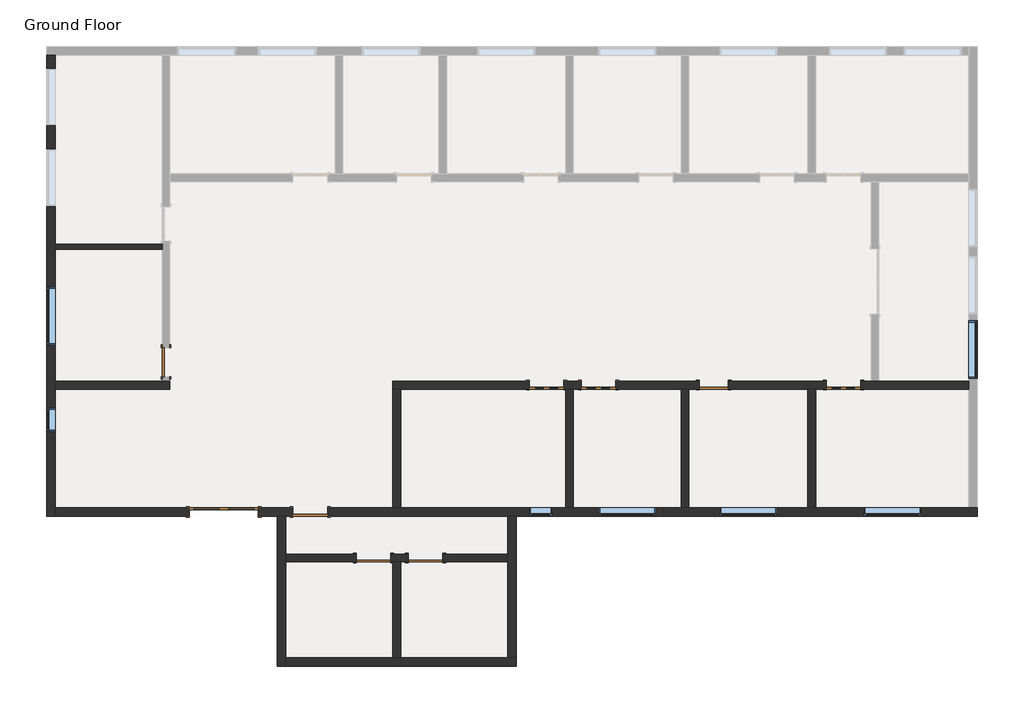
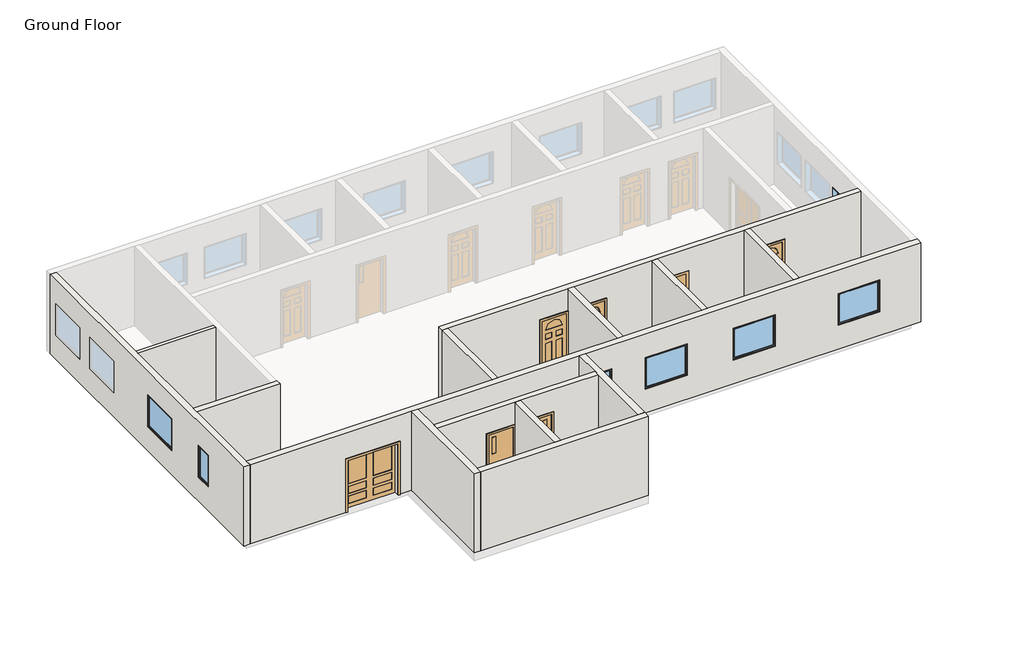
# One storey, part 1 of 2: 14 walls, 9 doors, 7 windows.
"""IFC4 building model written with IfcOpenShell, lengths in millimetres."""

import ifcopenshell
import ifcopenshell.guid

model = None  # the IFC model being written
_history = None  # IfcOwnerHistory: only IFC2X3 demands one
_inside = {}  # id of a spatial element -> (the spatial element, [elements in it])
_under = {}  # id of a project, library or spatial element -> (it, [spatial elements below it])
_declared = {}  # id of a project -> (the project, [libraries it declares])
_typed = {}  # id of a type object -> (the type object, [elements of that type])
_made_of = {}  # id of a material, layer set ... -> (it, [elements and type objects made of it])


def new_model(schema):
    """Start an empty IFC model of exactly this schema.

    Asked for "IFC4X3", IfcOpenShell would pick the latest addendum, in which some entities
    have other attributes; the version numbers below select the first issue.
    IFC2X3 requires an IfcOwnerHistory on every rooted entity: one is made here for all.
    """
    global model, _history
    if schema == "IFC4X3":
        model = ifcopenshell.file(schema_version=(4, 3, 0, 0))
    else:
        model = ifcopenshell.file(schema=schema)
    _inside.clear()
    _under.clear()
    _declared.clear()
    _typed.clear()
    _made_of.clear()
    _history = None
    if model.schema == "IFC2X3":
        org = make("IfcOrganization", Name="unknown")
        user = make(
            "IfcPersonAndOrganization",
            ThePerson=make("IfcPerson", FamilyName="unknown"),
            TheOrganization=org,
        )
        app = make(
            "IfcApplication",
            ApplicationDeveloper=org,
            Version="unknown",
            ApplicationFullName="unknown",
            ApplicationIdentifier="unknown",
        )
        _history = make(
            "IfcOwnerHistory",
            OwningUser=user,
            OwningApplication=app,
            ChangeAction="ADDED",
            CreationDate=0,
        )
    return model


def make(cls, **values):
    """One entity of the class cls with the attributes given. An attribute that is None is left unset."""
    return model.create_entity(
        cls, **{name: value for name, value in values.items() if value is not None}
    )


def rooted(cls, **values):
    """An entity with a GlobalId (a new one), such as an element, a storey or a relation."""
    return make(cls, GlobalId=ifcopenshell.guid.new(), OwnerHistory=_history, **values)


def si_unit(unit_type, name, prefix=None):
    """IfcSIUnit, for example si_unit("LENGTHUNIT", "METRE", prefix="MILLI")."""
    return make("IfcSIUnit", UnitType=unit_type, Prefix=prefix, Name=name)


def assignment(units):
    """IfcUnitAssignment: the units of a project."""
    return None if units is None else make("IfcUnitAssignment", Units=units)


def point(xyz):
    """IfcCartesianPoint."""
    return None if xyz is None else make("IfcCartesianPoint", Coordinates=xyz)


def direction(xyz):
    """IfcDirection."""
    return None if xyz is None else make("IfcDirection", DirectionRatios=xyz)


def frame(location, z_axis=None, x_axis=None):
    """IfcAxis2Placement3D, a coordinate frame: its origin and axes. An axis left out is left unset."""
    return make(
        "IfcAxis2Placement3D",
        Location=point(location),
        Axis=direction(z_axis),
        RefDirection=direction(x_axis),
    )


def frame_2d(location, x_axis=None):
    """IfcAxis2Placement2D, a coordinate frame in the plane: its origin and x axis."""
    return make(
        "IfcAxis2Placement2D", Location=point(location), RefDirection=direction(x_axis)
    )


def origin():
    """The frame at (0, 0, 0) with its axes left unset."""
    return frame((0.0, 0.0, 0.0))


def origin_with_axes():
    """The frame at (0, 0, 0) with the z axis (0, 0, 1) and the x axis (1, 0, 0) written out."""
    return frame((0.0, 0.0, 0.0), z_axis=(0.0, 0.0, 1.0), x_axis=(1.0, 0.0, 0.0))


def place(relative_to, where):
    """IfcLocalPlacement: puts the frame where relative to a parent placement (None: the world)."""
    return make(
        "IfcLocalPlacement", PlacementRelTo=relative_to, RelativePlacement=where
    )


def context(
    kind, dimensions, precision=None, world=None, true_north=None, identifier=None
):
    """IfcGeometricRepresentationContext, for example the 3D "Model" context."""
    return make(
        "IfcGeometricRepresentationContext",
        ContextIdentifier=identifier,
        ContextType=kind,
        CoordinateSpaceDimension=dimensions,
        Precision=precision,
        WorldCoordinateSystem=world,
        TrueNorth=true_north,
    )


def project(units=None, contexts=None):
    """IfcProject with its units and contexts."""
    return rooted(
        "IfcProject",
        Name="project",
        RepresentationContexts=contexts,
        UnitsInContext=assignment(units),
    )


def spatial(cls, under=None, at=None, **own):
    """A site, building, storey or space (cls), placed at a placement, below another one or the project."""
    s = rooted(cls, ObjectPlacement=at, **own)
    if under is not None:
        _under.setdefault(under.id(), (under, []))[1].append(s)
    return s


def polyline(points):
    """IfcPolyline through the points."""
    return make("IfcPolyline", Points=[point(p) for p in points])


def circle_curve(where, radius):
    """IfcCircle in the frame where."""
    return make("IfcCircle", Position=where, Radius=radius)


def trimmed(basis, trim1, trim2, sense, master):
    """IfcTrimmedCurve: the piece of a basis curve between two trims."""
    return make(
        "IfcTrimmedCurve",
        BasisCurve=basis,
        Trim1=trim1,
        Trim2=trim2,
        SenseAgreement=sense,
        MasterRepresentation=master,
    )


def segment(curve, same_sense, transition):
    """IfcCompositeCurveSegment."""
    return make(
        "IfcCompositeCurveSegment",
        Transition=transition,
        SameSense=same_sense,
        ParentCurve=curve,
    )


def composite_curve(segments, self_intersect=None):
    """IfcCompositeCurve: segments joined end to end."""
    return make("IfcCompositeCurve", Segments=segments, SelfIntersect=self_intersect)


def outline(outer, holes=None, kind="AREA"):
    """IfcArbitraryClosedProfileDef: a profile drawn as a closed curve; with holes, ...WithVoids."""
    if holes is None:
        return make("IfcArbitraryClosedProfileDef", ProfileType=kind, OuterCurve=outer)
    return make(
        "IfcArbitraryProfileDefWithVoids",
        ProfileType=kind,
        OuterCurve=outer,
        InnerCurves=holes,
    )


def extrude(swept, where, along, depth):
    """IfcExtrudedAreaSolid: the profile swept, set in the frame where, extruded along a direction by depth."""
    return make(
        "IfcExtrudedAreaSolid",
        SweptArea=swept,
        Position=where,
        ExtrudedDirection=direction(along),
        Depth=depth,
    )


def faces_of(points, faces, orient=None, outer=None):
    """IfcFace entities. A face is a list of loops; a loop is a list of indices into points, from 0.

    orient and outer hold one flag for each loop. By default every Orientation is true, the
    first loop of a face is its IfcFaceOuterBound and the others are IfcFaceBound.
    """
    made = []
    for i, loops in enumerate(faces):
        bounds = []
        for j, loop in enumerate(loops):
            is_outer = j == 0 if outer is None else outer[i][j]
            bounds.append(
                make(
                    "IfcFaceOuterBound" if is_outer else "IfcFaceBound",
                    Bound=make("IfcPolyLoop", Polygon=[points[k] for k in loop]),
                    Orientation=True if orient is None else orient[i][j],
                )
            )
        made.append(make("IfcFace", Bounds=bounds))
    return made


def faceted_brep(points, faces, orient=None, outer=None, voids=None):
    """IfcFacetedBrep: a solid bounded by flat faces; with voids (closed shells), ...WithVoids."""
    shared = [point(p) for p in points]
    hull = make("IfcClosedShell", CfsFaces=faces_of(shared, faces, orient, outer))
    if voids is None:
        return make("IfcFacetedBrep", Outer=hull)
    return make(
        "IfcFacetedBrepWithVoids",
        Outer=hull,
        Voids=[
            make(cls, CfsFaces=faces_of(shared, fs, o, b)) for cls, fs, o, b in voids
        ],
    )


def shape(context_of_items, identifier, shape_type, items):
    """IfcShapeRepresentation: the items that make up one representation, for example the "Body"."""
    return make(
        "IfcShapeRepresentation",
        ContextOfItems=context_of_items,
        RepresentationIdentifier=identifier,
        RepresentationType=shape_type,
        Items=items,
    )


def source(mapping_origin, context_of_items, identifier, shape_type, items):
    """IfcRepresentationMap: a shape defined once, which mapped items show again and again."""
    return make(
        "IfcRepresentationMap",
        MappingOrigin=mapping_origin,
        MappedRepresentation=shape(context_of_items, identifier, shape_type, items),
    )


def transform(
    local_origin,
    x_axis=None,
    y_axis=None,
    z_axis=None,
    scale=None,
    scale2=None,
    scale3=None,
    uniform=True,
):
    """IfcCartesianTransformationOperator3D, or its non-uniform kind. x_axis, y_axis, z_axis: its Axis1, 2, 3."""
    if uniform:
        return make(
            "IfcCartesianTransformationOperator3D",
            Axis1=direction(x_axis),
            Axis2=direction(y_axis),
            LocalOrigin=point(local_origin),
            Scale=scale,
            Axis3=direction(z_axis),
        )
    return make(
        "IfcCartesianTransformationOperator3DnonUniform",
        Axis1=direction(x_axis),
        Axis2=direction(y_axis),
        LocalOrigin=point(local_origin),
        Scale=scale,
        Axis3=direction(z_axis),
        Scale2=scale2,
        Scale3=scale3,
    )


def mapped(mapping_source, mapping_target):
    """IfcMappedItem: shows the shape of a source again, moved by a transform."""
    return make(
        "IfcMappedItem", MappingSource=mapping_source, MappingTarget=mapping_target
    )


def made_of(thing, what):
    """Note that an element or type object is made of a material, layer set ...; save() writes the relation."""
    if what is not None:
        _made_of.setdefault(what.id(), (what, []))[1].append(thing)
    return thing


def element(
    cls,
    number,
    at=None,
    inside=None,
    cuts=None,
    type_object=None,
    material=None,
    context=None,
    identifier="Body",
    shape_type=None,
    held_by="IfcProductDefinitionShape",
    body=None,
    shapes=None,
    **own,
):
    """One element of the class cls, such as IfcWall. Its Tag is "e" and its number.

    at: its placement. inside: the storey or other place that contains it. cuts: it is an
    opening in that element (IfcRelVoidsElement). A single representation is given by context,
    identifier, shape_type and body (its items); several are given by shapes. held_by: the class
    of the entity that holds the representations. save() writes the other relations.
    """
    e = rooted(cls, Tag="e%d" % number, ObjectPlacement=at, **own)
    if body is not None:
        shapes = [shape(context, identifier, shape_type, body)]
    if shapes is not None:
        e.Representation = make(held_by, Representations=shapes)
    if inside is not None:
        _inside.setdefault(inside.id(), (inside, []))[1].append(e)
    if cuts is not None:
        rooted(
            "IfcRelVoidsElement", RelatingBuildingElement=cuts, RelatedOpeningElement=e
        )
    if type_object is not None:
        _typed.setdefault(type_object.id(), (type_object, []))[1].append(e)
    return made_of(e, material)


def aggregate(whole, parts):
    """IfcRelAggregates: a whole, such as a stair, and the parts it consists of."""
    return rooted("IfcRelAggregates", RelatingObject=whole, RelatedObjects=parts)


def save(model, path):
    """Write the relations noted so far, then the file.

    IfcRelAggregates (storeys below a building ...), IfcRelContainedInSpatialStructure (elements
    in a storey), IfcRelDefinesByType, IfcRelAssociatesMaterial and IfcRelDeclares: one each for
    every whole, place, type object, material and project.
    """
    for whole, parts in _under.values():
        aggregate(whole, parts)
    for where, things in _inside.values():
        rooted(
            "IfcRelContainedInSpatialStructure",
            RelatedElements=things,
            RelatingStructure=where,
        )
    for kind, things in _typed.values():
        rooted("IfcRelDefinesByType", RelatedObjects=things, RelatingType=kind)
    for what, things in _made_of.values():
        rooted("IfcRelAssociatesMaterial", RelatedObjects=things, RelatingMaterial=what)
    for by, libraries in _declared.values():
        rooted("IfcRelDeclares", RelatingContext=by, RelatedDefinitions=libraries)
    model.write(path)


def door_5adec8b9(model_context):
    return source(origin(), model_context, "Body", "SweptSolid", [
        extrude(outline(polyline([(2057.4, -990.6), (0.0, -990.6), (0.0, -914.4), (1981.2, -914.4), (1981.2, 914.4), (0.0, 914.4), (0.0, 990.6), (2057.4, 990.6), (2057.4, -990.6)])), frame((0.0, 114.3, 0.0), z_axis=(0.0, 1.0, 0.0), x_axis=(0.0, 0.0, 1.0)), (0.0, 0.0, 1.0), 25.4),
        extrude(outline(polyline([(127.0, 101.6), (787.4, 101.6), (787.4, 76.2), (127.0, 76.2), (127.0, 101.6)])), frame((0.0, 0.0, 914.4), z_axis=(0.0, 0.0, 1.0), x_axis=(1.0, 0.0, 0.0)), (0.0, 0.0, 1.0), 914.4),
        extrude(outline(polyline([(127.0, 101.6), (787.4, 101.6), (787.4, 76.2), (127.0, 76.2), (127.0, 101.6)])), frame((0.0, 0.0, 533.4), z_axis=(0.0, 0.0, 1.0), x_axis=(1.0, 0.0, 0.0)), (0.0, 0.0, 1.0), 279.4),
        extrude(outline(polyline([(127.0, 101.6), (787.4, 101.6), (787.4, 76.2), (127.0, 76.2), (127.0, 101.6)])), frame((0.0, 0.0, 152.4), z_axis=(0.0, 0.0, 1.0), x_axis=(1.0, 0.0, 0.0)), (0.0, 0.0, 1.0), 279.4),
        extrude(outline(polyline([(-787.4, 101.6), (-127.0, 101.6), (-127.0, 76.2), (-787.4, 76.2), (-787.4, 101.6)])), frame((0.0, 0.0, 914.4), z_axis=(0.0, 0.0, 1.0), x_axis=(1.0, 0.0, 0.0)), (0.0, 0.0, 1.0), 914.4),
        extrude(outline(polyline([(-787.4, 101.6), (-127.0, 101.6), (-127.0, 76.2), (-787.4, 76.2), (-787.4, 101.6)])), frame((0.0, 0.0, 533.4), z_axis=(0.0, 0.0, 1.0), x_axis=(1.0, 0.0, 0.0)), (0.0, 0.0, 1.0), 279.4),
        extrude(outline(polyline([(-787.4, 101.6), (-127.0, 101.6), (-127.0, 76.2), (-787.4, 76.2), (-787.4, 101.6)])), frame((0.0, 0.0, 152.4), z_axis=(0.0, 0.0, 1.0), x_axis=(1.0, 0.0, 0.0)), (0.0, 0.0, 1.0), 279.4),
        extrude(outline(polyline([(1981.2, -914.4), (0.0, -914.4), (0.0, 914.4), (1981.2, 914.4), (1981.2, -914.4)]), holes=[polyline([(1828.8, 127.0), (1828.8, 787.4), (914.4, 787.4), (914.4, 127.0), (1828.8, 127.0)]), polyline([(533.4, 787.4), (533.4, 127.0), (812.8, 127.0), (812.8, 787.4), (533.4, 787.4)]), polyline([(431.8, 787.4), (152.4, 787.4), (152.4, 127.0), (431.8, 127.0), (431.8, 787.4)]), polyline([(1828.8, -127.0), (914.4, -127.0), (914.4, -787.4), (1828.8, -787.4), (1828.8, -127.0)]), polyline([(812.8, -787.4), (812.8, -127.0), (533.4, -127.0), (533.4, -787.4), (812.8, -787.4)]), polyline([(152.4, -127.0), (152.4, -787.4), (431.8, -787.4), (431.8, -127.0), (152.4, -127.0)])]), frame((0.0, 63.5, 0.0), z_axis=(0.0, 1.0, 0.0), x_axis=(0.0, 0.0, 1.0)), (0.0, 0.0, 1.0), 50.8),
        extrude(outline(polyline([(1981.2, -914.4), (1981.2, 914.4), (0.0, 914.4), (0.0, 990.6), (2057.4, 990.6), (2057.4, -990.6), (0.0, -990.6), (0.0, -914.4), (1981.2, -914.4)])), frame((0.0, -139.7, 0.0), z_axis=(0.0, 1.0, 0.0), x_axis=(0.0, 0.0, 1.0)), (0.0, 0.0, 1.0), 25.4),
    ])


def door_f6339938(model_context):
    return source(origin(), model_context, "Body", "SweptSolid", [
        extrude(outline(polyline([(0.0, -457.2), (0.0, 457.2), (2133.6, 457.2), (2133.6, -457.2), (0.0, -457.2)]), holes=[polyline([(254.0, -76.2), (254.0, -304.8), (1219.2, -304.8), (1219.2, -76.2), (254.0, -76.2)]), polyline([(254.0, 304.8), (254.0, 76.2), (1219.2, 76.2), (1219.2, 304.8), (254.0, 304.8)]), polyline([(1371.6, 76.2), (1574.8, 76.2), (1574.8, 304.8), (1371.6, 304.8), (1371.6, 76.2)]), polyline([(1371.6, -304.8), (1574.8, -304.8), (1574.8, -76.2), (1371.6, -76.2), (1371.6, -304.8)]), composite_curve([segment(polyline([(1727.2, 304.8), (1727.2, -304.8)]), True, "CONTINUOUS"), segment(trimmed(circle_curve(frame_2d((1727.2, 0.0)), 304.8), [point((1727.2, -304.8))], [point((1727.2, 304.8))], True, "CARTESIAN"), True, "CONTINUOUS")], self_intersect=False)]), frame((0.0, 50.8, 0.0), z_axis=(0.0, 1.0, 0.0), x_axis=(0.0, 0.0, 1.0)), (0.0, 0.0, 1.0), 50.8),
        extrude(outline(polyline([(0.0, 457.2), (0.0, 533.4), (2209.8, 533.4), (2209.8, -533.4), (0.0, -533.4), (0.0, -457.2), (2133.6, -457.2), (2133.6, 457.2), (0.0, 457.2)])), frame((0.0, -127.0, 0.0), z_axis=(0.0, 1.0, 0.0), x_axis=(0.0, 0.0, 1.0)), (0.0, 0.0, 1.0), 25.4),
        extrude(outline(polyline([(2209.8, -533.4), (0.0, -533.4), (0.0, -457.2), (2133.6, -457.2), (2133.6, 457.2), (0.0, 457.2), (0.0, 533.4), (2209.8, 533.4), (2209.8, -533.4)])), frame((0.0, 101.6, 0.0), z_axis=(0.0, 1.0, 0.0), x_axis=(0.0, 0.0, 1.0)), (0.0, 0.0, 1.0), 25.4),
        extrude(outline(composite_curve([segment(polyline([(1727.2, -304.8), (1727.2, 304.8)]), True, "CONTINUOUS"), segment(trimmed(circle_curve(frame_2d((1727.2, 0.0)), 304.8), [point((1727.2, 304.8))], [point((1727.2, -304.8))], False, "CARTESIAN"), True, "CONTINUOUS")], self_intersect=False)), frame((0.0, 67.7333333, 0.0), z_axis=(0.0, 1.0, 0.0), x_axis=(0.0, 0.0, 1.0)), (0.0, 0.0, 1.0), 16.9333333),
        extrude(outline(polyline([(-304.8, 84.6666667), (-76.2, 84.6666667), (-76.2, 67.7333333), (-304.8, 67.7333333), (-304.8, 84.6666667)])), frame((0.0, 0.0, 254.0), z_axis=(0.0, 0.0, 1.0), x_axis=(1.0, 0.0, 0.0)), (0.0, 0.0, 1.0), 965.2),
        extrude(outline(polyline([(76.2, 84.6666667), (304.8, 84.6666667), (304.8, 67.7333333), (76.2, 67.7333333), (76.2, 84.6666667)])), frame((0.0, 0.0, 254.0), z_axis=(0.0, 0.0, 1.0), x_axis=(1.0, 0.0, 0.0)), (0.0, 0.0, 1.0), 965.2),
        extrude(outline(polyline([(76.2, 84.6666667), (304.8, 84.6666667), (304.8, 67.7333333), (76.2, 67.7333333), (76.2, 84.6666667)])), frame((0.0, 0.0, 1371.6), z_axis=(0.0, 0.0, 1.0), x_axis=(1.0, 0.0, 0.0)), (0.0, 0.0, 1.0), 203.2),
        extrude(outline(polyline([(-304.8, 84.6666667), (-76.2, 84.6666667), (-76.2, 67.7333333), (-304.8, 67.7333333), (-304.8, 84.6666667)])), frame((0.0, 0.0, 1371.6), z_axis=(0.0, 0.0, 1.0), x_axis=(1.0, 0.0, 0.0)), (0.0, 0.0, 1.0), 203.2),
    ])


def door_4314e8ec(model_context):
    return source(origin(), model_context, "Body", "SweptSolid", [
        extrude(outline(polyline([(2209.8, -457.2), (0.0, -457.2), (0.0, -381.0), (2133.6, -381.0), (2133.6, 381.0), (0.0, 381.0), (0.0, 457.2), (2209.8, 457.2), (2209.8, -457.2)])), frame((0.0, -127.0, 0.0), z_axis=(0.0, 1.0, 0.0), x_axis=(0.0, 0.0, 1.0)), (0.0, 0.0, 1.0), 25.4),
        extrude(outline(polyline([(2209.8, 457.2), (2209.8, -457.2), (0.0, -457.2), (0.0, -381.0), (2133.6, -381.0), (2133.6, 381.0), (0.0, 381.0), (0.0, 457.2), (2209.8, 457.2)])), frame((0.0, 101.6, 0.0), z_axis=(0.0, 1.0, 0.0), x_axis=(0.0, 0.0, 1.0)), (0.0, 0.0, 1.0), 25.4),
        extrude(outline(polyline([(381.0, -50.8), (381.0, -101.6), (-381.0, -101.6), (-381.0, -50.8), (381.0, -50.8)])), origin_with_axes(), (0.0, 0.0, 1.0), 2133.6),
    ])


def door_b6acaa4e(model_context):
    return source(origin(), model_context, "Body", "SweptSolid", [
        extrude(outline(polyline([(2209.8, -457.2), (0.0, -457.2), (0.0, -381.0), (2133.6, -381.0), (2133.6, 381.0), (0.0, 381.0), (0.0, 457.2), (2209.8, 457.2), (2209.8, -457.2)])), frame((0.0, 101.6, 0.0), z_axis=(0.0, 1.0, 0.0), x_axis=(0.0, 0.0, 1.0)), (0.0, 0.0, 1.0), 25.4),
        extrude(outline(polyline([(2209.8, 457.2), (2209.8, -457.2), (0.0, -457.2), (0.0, -381.0), (2133.6, -381.0), (2133.6, 381.0), (0.0, 381.0), (0.0, 457.2), (2209.8, 457.2)])), frame((0.0, -127.0, 0.0), z_axis=(0.0, 1.0, 0.0), x_axis=(0.0, 0.0, 1.0)), (0.0, 0.0, 1.0), 25.4),
        extrude(outline(polyline([(381.0, 50.8), (-381.0, 50.8), (-381.0, 101.6), (381.0, 101.6), (381.0, 50.8)])), origin_with_axes(), (0.0, 0.0, 1.0), 2133.6),
    ])


def door_a570ce24(model_context):
    return source(origin(), model_context, "Body", "SweptSolid", [
        extrude(outline(polyline([(2209.8, -533.4), (0.0, -533.4), (0.0, -457.2), (2133.6, -457.2), (2133.6, 457.2), (0.0, 457.2), (0.0, 533.4), (2209.8, 533.4), (2209.8, -533.4)])), frame((0.0, 114.3, 0.0), z_axis=(0.0, 1.0, 0.0), x_axis=(0.0, 0.0, 1.0)), (0.0, 0.0, 1.0), 25.4),
        extrude(outline(polyline([(2133.6, 457.2), (0.0, 457.2), (0.0, 533.4), (2209.8, 533.4), (2209.8, -533.4), (0.0, -533.4), (0.0, -457.2), (2133.6, -457.2), (2133.6, 457.2)])), frame((0.0, -139.7, 0.0), z_axis=(0.0, 1.0, 0.0), x_axis=(0.0, 0.0, 1.0)), (0.0, 0.0, 1.0), 25.4),
        extrude(outline(polyline([(-177.8, 76.2), (-304.8, 76.2), (-304.8, 82.55), (-177.8, 82.55), (-177.8, 76.2)])), frame((0.0, 0.0, 1346.2), z_axis=(0.0, 0.0, 1.0), x_axis=(1.0, 0.0, 0.0)), (0.0, 0.0, 1.0), 635.0),
        extrude(outline(polyline([(-177.8, 95.25), (-304.8, 95.25), (-304.8, 101.6), (-177.8, 101.6), (-177.8, 95.25)])), frame((0.0, 0.0, 1346.2), z_axis=(0.0, 0.0, 1.0), x_axis=(1.0, 0.0, 0.0)), (0.0, 0.0, 1.0), 635.0),
        extrude(outline(polyline([(2133.6, -457.2), (0.0, -457.2), (0.0, 457.2), (2133.6, 457.2), (2133.6, -457.2)]), holes=[polyline([(1981.2, -304.8), (1981.2, -177.8), (1346.2, -177.8), (1346.2, -304.8), (1981.2, -304.8)])]), frame((0.0, 63.5, 0.0), z_axis=(0.0, 1.0, 0.0), x_axis=(0.0, 0.0, 1.0)), (0.0, 0.0, 1.0), 50.8),
    ])


def door_6ffddb7e(model_context):
    return source(origin(), model_context, "Body", "SweptSolid", [
        extrude(outline(polyline([(2209.8, -533.4), (0.0, -533.4), (0.0, -457.2), (2133.6, -457.2), (2133.6, 457.2), (0.0, 457.2), (0.0, 533.4), (2209.8, 533.4), (2209.8, -533.4)])), frame((0.0, 101.6, 0.0), z_axis=(0.0, 1.0, 0.0), x_axis=(0.0, 0.0, 1.0)), (0.0, 0.0, 1.0), 25.4),
        extrude(outline(polyline([(2133.6, 457.2), (0.0, 457.2), (0.0, 533.4), (2209.8, 533.4), (2209.8, -533.4), (0.0, -533.4), (0.0, -457.2), (2133.6, -457.2), (2133.6, 457.2)])), frame((0.0, -127.0, 0.0), z_axis=(0.0, 1.0, 0.0), x_axis=(0.0, 0.0, 1.0)), (0.0, 0.0, 1.0), 25.4),
        extrude(outline(polyline([(-177.8, 63.5), (-304.8, 63.5), (-304.8, 69.85), (-177.8, 69.85), (-177.8, 63.5)])), frame((0.0, 0.0, 1346.2), z_axis=(0.0, 0.0, 1.0), x_axis=(1.0, 0.0, 0.0)), (0.0, 0.0, 1.0), 635.0),
        extrude(outline(polyline([(-177.8, 82.55), (-304.8, 82.55), (-304.8, 88.9), (-177.8, 88.9), (-177.8, 82.55)])), frame((0.0, 0.0, 1346.2), z_axis=(0.0, 0.0, 1.0), x_axis=(1.0, 0.0, 0.0)), (0.0, 0.0, 1.0), 635.0),
        extrude(outline(polyline([(2133.6, -457.2), (0.0, -457.2), (0.0, 457.2), (2133.6, 457.2), (2133.6, -457.2)]), holes=[polyline([(1981.2, -304.8), (1981.2, -177.8), (1346.2, -177.8), (1346.2, -304.8), (1981.2, -304.8)])]), frame((0.0, 50.8, 0.0), z_axis=(0.0, 1.0, 0.0), x_axis=(0.0, 0.0, 1.0)), (0.0, 0.0, 1.0), 50.8),
    ])


def door_2b60cb60(model_context):
    return source(origin(), model_context, "Body", "SweptSolid", [
        extrude(outline(polyline([(2209.8, -533.4), (0.0, -533.4), (0.0, -457.2), (2133.6, -457.2), (2133.6, 457.2), (0.0, 457.2), (0.0, 533.4), (2209.8, 533.4), (2209.8, -533.4)])), frame((0.0, -127.0, 0.0), z_axis=(0.0, 1.0, 0.0), x_axis=(0.0, 0.0, 1.0)), (0.0, 0.0, 1.0), 25.4),
        extrude(outline(polyline([(2133.6, 457.2), (0.0, 457.2), (0.0, 533.4), (2209.8, 533.4), (2209.8, -533.4), (0.0, -533.4), (0.0, -457.2), (2133.6, -457.2), (2133.6, 457.2)])), frame((0.0, 101.6, 0.0), z_axis=(0.0, 1.0, 0.0), x_axis=(0.0, 0.0, 1.0)), (0.0, 0.0, 1.0), 25.4),
        extrude(outline(polyline([(-177.8, -63.5), (-177.8, -69.85), (-304.8, -69.85), (-304.8, -63.5), (-177.8, -63.5)])), frame((0.0, 0.0, 1346.2), z_axis=(0.0, 0.0, 1.0), x_axis=(1.0, 0.0, 0.0)), (0.0, 0.0, 1.0), 635.0),
        extrude(outline(polyline([(-177.8, -82.55), (-177.8, -88.9), (-304.8, -88.9), (-304.8, -82.55), (-177.8, -82.55)])), frame((0.0, 0.0, 1346.2), z_axis=(0.0, 0.0, 1.0), x_axis=(1.0, 0.0, 0.0)), (0.0, 0.0, 1.0), 635.0),
        extrude(outline(polyline([(2133.6, -457.2), (0.0, -457.2), (0.0, 457.2), (2133.6, 457.2), (2133.6, -457.2)]), holes=[polyline([(1981.2, -304.8), (1981.2, -177.8), (1346.2, -177.8), (1346.2, -304.8), (1981.2, -304.8)])]), frame((0.0, -101.6, 0.0), z_axis=(0.0, 1.0, 0.0), x_axis=(0.0, 0.0, 1.0)), (0.0, 0.0, 1.0), 50.8),
    ])


def window_c82808a1(model_context):
    return source(origin(), model_context, "Body", "SweptSolid", [
        extrude(outline(polyline([(203.2, 66.675), (-279.4, 66.675), (-279.4, 79.375), (203.2, 79.375), (203.2, 66.675)])), frame((0.0, 0.0, 977.9), z_axis=(0.0, 0.0, 1.0), x_axis=(1.0, 0.0, 0.0)), (0.0, 0.0, 1.0), 1092.2),
        extrude(outline(polyline([(2114.55, -323.85), (933.45, -323.85), (933.45, 247.65), (2114.55, 247.65), (2114.55, -323.85)]), holes=[polyline([(2070.1, -279.4), (2070.1, 203.2), (977.9, 203.2), (977.9, -279.4), (2070.1, -279.4)])]), frame((0.0, 50.8, 0.0), z_axis=(0.0, 1.0, 0.0), x_axis=(0.0, 0.0, 1.0)), (0.0, 0.0, 1.0), 44.45),
        extrude(outline(polyline([(2133.6, -342.9), (914.4, -342.9), (914.4, 266.7), (2133.6, 266.7), (2133.6, -342.9)]), holes=[polyline([(2101.85, -311.15), (2101.85, 234.95), (946.15, 234.95), (946.15, -311.15), (2101.85, -311.15)])]), frame((0.0, -114.3, 0.0), z_axis=(0.0, 1.0, 0.0), x_axis=(0.0, 0.0, 1.0)), (0.0, 0.0, 1.0), 165.1),
        extrude(outline(polyline([(2133.6, 266.7), (2133.6, -342.9), (914.4, -342.9), (914.4, 266.7), (2133.6, 266.7)]), holes=[polyline([(2114.55, 247.65), (933.45, 247.65), (933.45, -323.85), (2114.55, -323.85), (2114.55, 247.65)])]), frame((0.0, 50.8, 0.0), z_axis=(0.0, 1.0, 0.0), x_axis=(0.0, 0.0, 1.0)), (0.0, 0.0, 1.0), 63.5),
    ])


def window_145d3b12(model_context):
    return source(origin(), model_context, "Body", "SweptSolid", [
        extrude(outline(polyline([(660.4, 66.675), (-736.6, 66.675), (-736.6, 79.375), (660.4, 79.375), (660.4, 66.675)])), frame((0.0, 0.0, 977.9), z_axis=(0.0, 0.0, 1.0), x_axis=(1.0, 0.0, 0.0)), (0.0, 0.0, 1.0), 1092.2),
        extrude(outline(polyline([(2114.55, -781.05), (933.45, -781.05), (933.45, 704.85), (2114.55, 704.85), (2114.55, -781.05)]), holes=[polyline([(2070.1, -736.6), (2070.1, 660.4), (977.9, 660.4), (977.9, -736.6), (2070.1, -736.6)])]), frame((0.0, 50.8, 0.0), z_axis=(0.0, 1.0, 0.0), x_axis=(0.0, 0.0, 1.0)), (0.0, 0.0, 1.0), 44.45),
        extrude(outline(polyline([(2133.6, -800.1), (914.4, -800.1), (914.4, 723.9), (2133.6, 723.9), (2133.6, -800.1)]), holes=[polyline([(2101.85, -768.35), (2101.85, 692.15), (946.15, 692.15), (946.15, -768.35), (2101.85, -768.35)])]), frame((0.0, -114.3, 0.0), z_axis=(0.0, 1.0, 0.0), x_axis=(0.0, 0.0, 1.0)), (0.0, 0.0, 1.0), 165.1),
        extrude(outline(polyline([(2133.6, 723.9), (2133.6, -800.1), (914.4, -800.1), (914.4, 723.9), (2133.6, 723.9)]), holes=[polyline([(2114.55, 704.85), (933.45, 704.85), (933.45, -781.05), (2114.55, -781.05), (2114.55, 704.85)])]), frame((0.0, 50.8, 0.0), z_axis=(0.0, 1.0, 0.0), x_axis=(0.0, 0.0, 1.0)), (0.0, 0.0, 1.0), 63.5),
    ])


model = new_model("IFC4")

# Units and contexts
model_context = context("Model", 3, world=origin())
ifc_project = project(units=[si_unit("LENGTHUNIT", "METRE", prefix="MILLI")], contexts=[model_context])

# Site, building, storey
site = spatial("IfcSite", under=ifc_project)
building = spatial("IfcBuilding", under=site)
storey = spatial("IfcBuildingStorey", under=building, Name="Ground Floor", Elevation=0.0)

# Doors
placement = place(None, origin())
door_shape = door_5adec8b9(model_context)
element("IfcDoor", 1, ObjectType="Double-Panel 1 : 72\" x 78\"", at=placement, inside=storey, context=model_context, shape_type="MappedRepresentation", body=[
    mapped(door_shape, transform((-7913.6044048, -4590.2833744, 0.0), x_axis=(1.0, 0.0, 0.0), y_axis=(0.0, 1.0, 0.0), z_axis=(0.0, 0.0, 1.0))),
])
door_2_shape = door_f6339938(model_context)
element("IfcDoor", 2, ObjectType="Single-Decorative 2 : 36\" x 84\"", at=placement, inside=storey, context=model_context, shape_type="MappedRepresentation", body=[
    mapped(door_2_shape, transform((620.7955952, -1237.4833744, 0.0), x_axis=(-1.0, 0.0, 0.0), y_axis=(0.0, -1.0, 0.0), z_axis=(0.0, 0.0, 1.0))),
])
element("IfcDoor", 3, ObjectType="Single-Decorative 2 : 36\" x 84\"", at=placement, inside=storey, context=model_context, shape_type="MappedRepresentation", body=[
    mapped(door_2_shape, transform((1992.3955952, -1237.4833744, 0.0), x_axis=(-1.0, 0.0, 0.0), y_axis=(0.0, -1.0, 0.0), z_axis=(0.0, 0.0, 1.0))),
])
element("IfcDoor", 4, ObjectType="Single-Decorative 2 : 36\" x 84\"", at=placement, inside=storey, context=model_context, shape_type="MappedRepresentation", body=[
    mapped(door_2_shape, transform((8469.3955952, -1237.4833744, 0.0), x_axis=(-1.0, 0.0, 0.0), y_axis=(0.0, -1.0, 0.0), z_axis=(0.0, 0.0, 1.0))),
])
door_3_shape = door_4314e8ec(model_context)
element("IfcDoor", 5, ObjectType="Single-Flush : 30\" x 84\"", at=placement, inside=storey, context=model_context, shape_type="MappedRepresentation", body=[
    mapped(door_3_shape, transform((-9437.6044048, -627.8833744, 0.0), x_axis=(0.0, -1.0, 0.0), y_axis=(1.0, 0.0, 0.0), z_axis=(0.0, 0.0, 1.0))),
])
door_4_shape = door_b6acaa4e(model_context)
element("IfcDoor", 6, ObjectType="Single-Flush : 30\" x 84\"", at=placement, inside=storey, context=model_context, shape_type="MappedRepresentation", body=[
    mapped(door_4_shape, transform((5040.3955952, -1237.4833744, 0.0), x_axis=(-1.0, 0.0, 0.0), y_axis=(0.0, -1.0, 0.0), z_axis=(0.0, 0.0, 1.0))),
])
door_5_shape = door_a570ce24(model_context)
element("IfcDoor", 7, ObjectType="Single-Flush Vision : 36\" x 84\"", at=placement, inside=storey, context=model_context, shape_type="MappedRepresentation", body=[
    mapped(door_5_shape, transform((-5627.6044048, -4590.2833744, 0.0), x_axis=(-1.0, 0.0, 0.0), y_axis=(0.0, -1.0, 0.0), z_axis=(0.0, 0.0, 1.0))),
])
door_6_shape = door_6ffddb7e(model_context)
element("IfcDoor", 8, ObjectType="Single-Flush Vision : 36\" x 84\"", at=placement, inside=storey, context=model_context, shape_type="MappedRepresentation", body=[
    mapped(door_6_shape, transform((-2579.6044048, -5809.4833744, 0.0), x_axis=(-1.0, 0.0, 0.0), y_axis=(0.0, -1.0, 0.0), z_axis=(0.0, 0.0, 1.0))),
])
door_7_shape = door_2b60cb60(model_context)
element("IfcDoor", 9, ObjectType="Single-Flush Vision : 36\" x 84\"", at=placement, inside=storey, context=model_context, shape_type="MappedRepresentation", body=[
    mapped(door_7_shape, transform((-3951.2044048, -5809.4833744, 0.0), x_axis=(1.0, 0.0, 0.0), y_axis=(0.0, 1.0, 0.0), z_axis=(0.0, 0.0, 1.0))),
])

# Walls
element("IfcWall", 10, ObjectType="Generic - 5\"", at=placement, inside=storey, context=model_context, shape_type="SweptSolid", body=[
    extrude(outline(polyline([(-9539.2044048, 2356.6166256), (-12371.3044048, 2356.6166256), (-12371.3044048, 2483.6166256), (-9539.2044048, 2483.6166256), (-9539.2044048, 2356.6166256)])), origin_with_axes(), (0.0, 0.0, 1.0), 3048.0),
])
element("IfcWall", 11, ObjectType="Generic - 8\"", at=placement, inside=storey, context=model_context, shape_type="Brep", body=[
    faceted_brep([(-9336.0044048, -1135.8833744, 0.0), (-9539.2044048, -1135.8833744, 0.0), (-12371.3044048, -1135.8833744, 0.0), (-12371.3044048, -1135.8833744, 3048.0), (-9539.2044048, -1135.8833744, 3048.0), (-9336.0044048, -1135.8833744, 3048.0), (-9336.0044048, -1339.0833744, 0.0), (-9336.0044048, -1339.0833744, 3048.0), (-12371.3044048, -1339.0833744, 3048.0), (-12371.3044048, -1339.0833744, 0.0)], [[[0, 1, 2, 3, 4, 5]], [[6, 7, 8, 9]], [[2, 1, 0, 6, 9]], [[5, 4, 3, 8, 7]], [[3, 2, 9, 8]], [[0, 5, 7, 6]]]),
])
element("IfcWall", 12, ObjectType="Generic - 8\"", at=placement, inside=storey, context=model_context, shape_type="Brep", body=[
    faceted_brep([(2449.5955952, -1339.0833744, 0.0), (4176.7955952, -1339.0833744, 0.0), (4379.9955952, -1339.0833744, 0.0), (4659.3955952, -1339.0833744, 0.0), (4659.3955952, -1339.0833744, 2133.6), (5421.3955952, -1339.0833744, 2133.6), (5421.3955952, -1339.0833744, 0.0), (7529.5955952, -1339.0833744, 0.0), (7732.7955952, -1339.0833744, 0.0), (8012.1955952, -1339.0833744, 0.0), (8012.1955952, -1339.0833744, 2133.6), (8926.5955952, -1339.0833744, 2133.6), (8926.5955952, -1339.0833744, 0.0), (11784.0955952, -1339.0833744, 0.0), (11784.0955952, -1339.0833744, 3048.0), (7732.7955952, -1339.0833744, 3048.0), (7529.5955952, -1339.0833744, 3048.0), (4379.9955952, -1339.0833744, 3048.0), (4176.7955952, -1339.0833744, 3048.0), (1331.9955952, -1339.0833744, 3048.0), (1128.7955952, -1339.0833744, 3048.0), (-3240.0044048, -1339.0833744, 3048.0), (-3443.2044048, -1339.0833744, 3048.0), (-3443.2044048, -1339.0833744, 0.0), (-3240.0044048, -1339.0833744, 0.0), (163.5955952, -1339.0833744, 0.0), (163.5955952, -1339.0833744, 2133.6), (1077.9955952, -1339.0833744, 2133.6), (1077.9955952, -1339.0833744, 0.0), (1128.7955952, -1339.0833744, 0.0), (1331.9955952, -1339.0833744, 0.0), (1535.1955952, -1339.0833744, 0.0), (1535.1955952, -1339.0833744, 2133.6), (2449.5955952, -1339.0833744, 2133.6), (4659.3955952, -1135.8833744, 2133.6), (4659.3955952, -1135.8833744, 0.0), (2449.5955952, -1135.8833744, 0.0), (2449.5955952, -1135.8833744, 2133.6), (1535.1955952, -1135.8833744, 2133.6), (1535.1955952, -1135.8833744, 0.0), (1077.9955952, -1135.8833744, 0.0), (1077.9955952, -1135.8833744, 2133.6), (163.5955952, -1135.8833744, 2133.6), (163.5955952, -1135.8833744, 0.0), (-3443.2044048, -1135.8833744, 0.0), (-3443.2044048, -1135.8833744, 3048.0), (9205.9955952, -1135.8833744, 3048.0), (9409.1955952, -1135.8833744, 3048.0), (11784.0955952, -1135.8833744, 3048.0), (11784.0955952, -1135.8833744, 0.0), (9409.1955952, -1135.8833744, 0.0), (9205.9955952, -1135.8833744, 0.0), (8926.5955952, -1135.8833744, 0.0), (8926.5955952, -1135.8833744, 2133.6), (8012.1955952, -1135.8833744, 2133.6), (8012.1955952, -1135.8833744, 0.0), (5421.3955952, -1135.8833744, 0.0), (5421.3955952, -1135.8833744, 2133.6)], [[[0, 1, 2, 3, 4, 5, 6, 7, 8, 9, 10, 11, 12, 13, 14, 15, 16, 17, 18, 19, 20, 21, 22, 23, 24, 25, 26, 27, 28, 29, 30, 31, 32, 33]], [[34, 35, 36, 37, 38, 39, 40, 41, 42, 43, 44, 45, 46, 47, 48, 49, 50, 51, 52, 53, 54, 55, 56, 57]], [[44, 43, 25, 24, 23]], [[40, 39, 31, 30, 29, 28]], [[52, 51, 50, 49, 13, 12]], [[56, 55, 9, 8, 7, 6]], [[36, 35, 3, 2, 1, 0]], [[22, 21, 20, 19, 18, 17, 16, 15, 14, 48, 47, 46, 45]], [[14, 13, 49, 48]], [[23, 22, 45, 44]], [[26, 25, 43, 42]], [[27, 26, 42, 41]], [[28, 27, 41, 40]], [[32, 31, 39, 38]], [[33, 32, 38, 37]], [[0, 33, 37, 36]], [[10, 9, 55, 54]], [[11, 10, 54, 53]], [[12, 11, 53, 52]], [[4, 3, 35, 34]], [[5, 4, 34, 57]], [[6, 5, 57, 56]]]),
])
element("IfcWall", 13, ObjectType="Generic - 8\"", at=placement, inside=storey, context=model_context, shape_type="SweptSolid", body=[
    extrude(outline(polyline([(-3240.0044048, -1339.0833744), (-3240.0044048, -4475.9833744), (-3443.2044048, -4475.9833744), (-3443.2044048, -1339.0833744), (-3240.0044048, -1339.0833744)])), origin_with_axes(), (0.0, 0.0, 1.0), 3048.0),
])
element("IfcWall", 14, ObjectType="Generic - 8\"", at=placement, inside=storey, context=model_context, shape_type="SweptSolid", body=[
    extrude(outline(polyline([(1331.9955952, -1339.0833744), (1331.9955952, -4475.9833744), (1128.7955952, -4475.9833744), (1128.7955952, -1339.0833744), (1331.9955952, -1339.0833744)])), origin_with_axes(), (0.0, 0.0, 1.0), 3048.0),
])
element("IfcWall", 15, ObjectType="Generic - 8\"", at=placement, inside=storey, context=model_context, shape_type="SweptSolid", body=[
    extrude(outline(polyline([(4379.9955952, -1339.0833744), (4379.9955952, -4475.9833744), (4176.7955952, -4475.9833744), (4176.7955952, -1339.0833744), (4379.9955952, -1339.0833744)])), origin_with_axes(), (0.0, 0.0, 1.0), 3048.0),
])
element("IfcWall", 16, ObjectType="Generic - 8\"", at=placement, inside=storey, context=model_context, shape_type="SweptSolid", body=[
    extrude(outline(polyline([(7732.7955952, -1339.0833744), (7732.7955952, -4475.9833744), (7529.5955952, -4475.9833744), (7529.5955952, -1339.0833744), (7732.7955952, -1339.0833744)])), origin_with_axes(), (0.0, 0.0, 1.0), 3048.0),
])
element("IfcWall", 17, ObjectType="Generic - 8\"", at=placement, inside=storey, context=model_context, shape_type="SweptSolid", body=[
    extrude(outline(polyline([(-3240.0044048, -5911.0833744), (-3240.0044048, -8438.3833744), (-3443.2044048, -8438.3833744), (-3443.2044048, -5911.0833744), (-3240.0044048, -5911.0833744)])), origin_with_axes(), (0.0, 0.0, 1.0), 3048.0),
])
element("IfcWall", 18, ObjectType="Generic - 8\"", at=placement, inside=storey, context=model_context, shape_type="Brep", body=[
    faceted_brep([(-3036.8044048, -5707.8833744, 2133.6), (-3036.8044048, -5707.8833744, 0.0), (-3494.0044048, -5707.8833744, 0.0), (-3494.0044048, -5707.8833744, 2133.6), (-4408.4044048, -5707.8833744, 2133.6), (-4408.4044048, -5707.8833744, 0.0), (-6275.3044048, -5707.8833744, 0.0), (-6275.3044048, -5707.8833744, 3048.0), (-407.9044048, -5707.8833744, 3048.0), (-407.9044048, -5707.8833744, 0.0), (-2122.4044048, -5707.8833744, 0.0), (-2122.4044048, -5707.8833744, 2133.6), (-3494.0044048, -5911.0833744, 0.0), (-3443.2044048, -5911.0833744, 0.0), (-3240.0044048, -5911.0833744, 0.0), (-3036.8044048, -5911.0833744, 0.0), (-3036.8044048, -5911.0833744, 2133.6), (-2122.4044048, -5911.0833744, 2133.6), (-2122.4044048, -5911.0833744, 0.0), (-407.9044048, -5911.0833744, 0.0), (-407.9044048, -5911.0833744, 3048.0), (-3240.0044048, -5911.0833744, 3048.0), (-3443.2044048, -5911.0833744, 3048.0), (-6275.3044048, -5911.0833744, 3048.0), (-6275.3044048, -5911.0833744, 0.0), (-4408.4044048, -5911.0833744, 0.0), (-4408.4044048, -5911.0833744, 2133.6), (-3494.0044048, -5911.0833744, 2133.6)], [[[0, 1, 2, 3, 4, 5, 6, 7, 8, 9, 10, 11]], [[12, 13, 14, 15, 16, 17, 18, 19, 20, 21, 22, 23, 24, 25, 26, 27]], [[25, 24, 6, 5]], [[10, 9, 19, 18]], [[2, 1, 15, 14, 13, 12]], [[8, 7, 23, 22, 21, 20]], [[7, 6, 24, 23]], [[9, 8, 20, 19]], [[3, 2, 12, 27]], [[4, 3, 27, 26]], [[5, 4, 26, 25]], [[16, 15, 1, 0]], [[17, 16, 0, 11]], [[18, 17, 11, 10]]]),
])
element("IfcWall", 19, ObjectType="Generic- 9\"", at=placement, inside=storey, context=model_context, shape_type="Brep", body=[
    faceted_brep([(-12371.3044048, -4704.5833744, 0.0), (-12371.3044048, -4475.9833744, 0.0), (-12371.3044048, -1339.0833744, 0.0), (-12371.3044048, -1135.8833744, 0.0), (-12371.3044048, 2356.6166256, 0.0), (-12371.3044048, 2483.6166256, 0.0), (-12371.3044048, 7487.4166256, 0.0), (-12371.3044048, 7487.4166256, 3048.0), (-12371.3044048, 2483.6166256, 3048.0), (-12371.3044048, 2356.6166256, 3048.0), (-12371.3044048, -1135.8833744, 3048.0), (-12371.3044048, -1339.0833744, 3048.0), (-12371.3044048, -4475.9833744, 3048.0), (-12371.3044048, -4704.5833744, 3048.0), (-12371.3044048, 1353.3166256, 2133.6), (-12371.3044048, 1353.3166256, 914.4), (-12371.3044048, -170.6833744, 914.4), (-12371.3044048, -170.6833744, 2133.6), (-12371.3044048, 5010.9166256, 2133.6), (-12371.3044048, 5010.9166256, 914.4), (-12371.3044048, 3486.9166256, 914.4), (-12371.3044048, 3486.9166256, 2133.6), (-12371.3044048, 7144.5166256, 2133.6), (-12371.3044048, 7144.5166256, 914.4), (-12371.3044048, 5620.5166256, 914.4), (-12371.3044048, 5620.5166256, 2133.6), (-12371.3044048, -1847.0833744, 2133.6), (-12371.3044048, -1847.0833744, 914.4), (-12371.3044048, -2456.6833744, 914.4), (-12371.3044048, -2456.6833744, 2133.6), (-12599.9044048, -4704.5833744, 0.0), (-12599.9044048, -4704.5833744, 3048.0), (-12599.9044048, 7487.4166256, 3048.0), (-12599.9044048, 7487.4166256, 0.0), (-12599.9044048, 1353.3166256, 2133.6), (-12599.9044048, -170.6833744, 2133.6), (-12599.9044048, -170.6833744, 914.4), (-12599.9044048, 1353.3166256, 914.4), (-12599.9044048, 5010.9166256, 2133.6), (-12599.9044048, 3486.9166256, 2133.6), (-12599.9044048, 3486.9166256, 914.4), (-12599.9044048, 5010.9166256, 914.4), (-12599.9044048, 7144.5166256, 2133.6), (-12599.9044048, 5620.5166256, 2133.6), (-12599.9044048, 5620.5166256, 914.4), (-12599.9044048, 7144.5166256, 914.4), (-12599.9044048, -1847.0833744, 2133.6), (-12599.9044048, -2456.6833744, 2133.6), (-12599.9044048, -2456.6833744, 914.4), (-12599.9044048, -1847.0833744, 914.4)], [[[0, 1, 2, 3, 4, 5, 6, 7, 8, 9, 10, 11, 12, 13], [14, 15, 16, 17], [18, 19, 20, 21], [22, 23, 24, 25], [26, 27, 28, 29]], [[30, 31, 32, 33], [34, 35, 36, 37], [38, 39, 40, 41], [42, 43, 44, 45], [46, 47, 48, 49]], [[6, 5, 4, 3, 2, 1, 0, 30, 33]], [[13, 12, 11, 10, 9, 8, 7, 32, 31]], [[0, 13, 31, 30]], [[7, 6, 33, 32]], [[15, 14, 34, 37]], [[16, 15, 37, 36]], [[17, 16, 36, 35]], [[14, 17, 35, 34]], [[19, 18, 38, 41]], [[20, 19, 41, 40]], [[21, 20, 40, 39]], [[18, 21, 39, 38]], [[23, 22, 42, 45]], [[24, 23, 45, 44]], [[25, 24, 44, 43]], [[22, 25, 43, 42]], [[27, 26, 46, 49]], [[28, 27, 49, 48]], [[29, 28, 48, 47]], [[26, 29, 47, 46]]]),
])
element("IfcWall", 20, ObjectType="Generic- 9\"", at=placement, inside=storey, context=model_context, shape_type="Brep", body=[
    faceted_brep([(-6084.8044048, -4475.9833744, 2133.6), (-6084.8044048, -4475.9833744, 0.0), (-6999.2044048, -4475.9833744, 0.0), (-6999.2044048, -4475.9833744, 1981.2), (-8828.0044048, -4475.9833744, 1981.2), (-8828.0044048, -4475.9833744, 0.0), (-12371.3044048, -4475.9833744, 0.0), (-12371.3044048, -4475.9833744, 3048.0), (-3443.2044048, -4475.9833744, 3048.0), (-3240.0044048, -4475.9833744, 3048.0), (1128.7955952, -4475.9833744, 3048.0), (1331.9955952, -4475.9833744, 3048.0), (4176.7955952, -4475.9833744, 3048.0), (4379.9955952, -4475.9833744, 3048.0), (7529.5955952, -4475.9833744, 3048.0), (7732.7955952, -4475.9833744, 3048.0), (11784.0955952, -4475.9833744, 3048.0), (12012.6955952, -4475.9833744, 3048.0), (12012.6955952, -4475.9833744, 0.0), (11784.0955952, -4475.9833744, 0.0), (7732.7955952, -4475.9833744, 0.0), (7529.5955952, -4475.9833744, 0.0), (4379.9955952, -4475.9833744, 0.0), (4176.7955952, -4475.9833744, 0.0), (1331.9955952, -4475.9833744, 0.0), (1128.7955952, -4475.9833744, 0.0), (-3240.0044048, -4475.9833744, 0.0), (-3443.2044048, -4475.9833744, 0.0), (-5170.4044048, -4475.9833744, 0.0), (-5170.4044048, -4475.9833744, 2133.6), (9002.7955952, -4475.9833744, 2133.6), (9002.7955952, -4475.9833744, 914.4), (10526.7955952, -4475.9833744, 914.4), (10526.7955952, -4475.9833744, 2133.6), (5192.7955952, -4475.9833744, 2133.6), (5192.7955952, -4475.9833744, 914.4), (6716.7955952, -4475.9833744, 914.4), (6716.7955952, -4475.9833744, 2133.6), (1992.3955952, -4475.9833744, 2133.6), (1992.3955952, -4475.9833744, 914.4), (3516.3955952, -4475.9833744, 914.4), (3516.3955952, -4475.9833744, 2133.6), (163.5955952, -4475.9833744, 2133.6), (163.5955952, -4475.9833744, 914.4), (773.1955952, -4475.9833744, 914.4), (773.1955952, -4475.9833744, 2133.6), (-6999.2044048, -4704.5833744, 0.0), (-6503.9044048, -4704.5833744, 0.0), (-6275.3044048, -4704.5833744, 0.0), (-6084.8044048, -4704.5833744, 0.0), (-6084.8044048, -4704.5833744, 2133.6), (-5170.4044048, -4704.5833744, 2133.6), (-5170.4044048, -4704.5833744, 0.0), (-407.9044048, -4704.5833744, 0.0), (-179.3044048, -4704.5833744, 0.0), (12012.6955952, -4704.5833744, 0.0), (12012.6955952, -4704.5833744, 3048.0), (-179.3044048, -4704.5833744, 3048.0), (-407.9044048, -4704.5833744, 3048.0), (-6275.3044048, -4704.5833744, 3048.0), (-6503.9044048, -4704.5833744, 3048.0), (-12371.3044048, -4704.5833744, 3048.0), (-12371.3044048, -4704.5833744, 0.0), (-8828.0044048, -4704.5833744, 0.0), (-8828.0044048, -4704.5833744, 1981.2), (-6999.2044048, -4704.5833744, 1981.2), (9002.7955952, -4704.5833744, 2133.6), (10526.7955952, -4704.5833744, 2133.6), (10526.7955952, -4704.5833744, 914.4), (9002.7955952, -4704.5833744, 914.4), (5192.7955952, -4704.5833744, 2133.6), (6716.7955952, -4704.5833744, 2133.6), (6716.7955952, -4704.5833744, 914.4), (5192.7955952, -4704.5833744, 914.4), (1992.3955952, -4704.5833744, 2133.6), (3516.3955952, -4704.5833744, 2133.6), (3516.3955952, -4704.5833744, 914.4), (1992.3955952, -4704.5833744, 914.4), (163.5955952, -4704.5833744, 2133.6), (773.1955952, -4704.5833744, 2133.6), (773.1955952, -4704.5833744, 914.4), (163.5955952, -4704.5833744, 914.4)], [[[0, 1, 2, 3, 4, 5, 6, 7, 8, 9, 10, 11, 12, 13, 14, 15, 16, 17, 18, 19, 20, 21, 22, 23, 24, 25, 26, 27, 28, 29], [30, 31, 32, 33], [34, 35, 36, 37], [38, 39, 40, 41], [42, 43, 44, 45]], [[46, 47, 48, 49, 50, 51, 52, 53, 54, 55, 56, 57, 58, 59, 60, 61, 62, 63, 64, 65], [66, 67, 68, 69], [70, 71, 72, 73], [74, 75, 76, 77], [78, 79, 80, 81]], [[62, 6, 5, 63]], [[2, 1, 49, 48, 47, 46]], [[28, 27, 26, 25, 24, 23, 22, 21, 20, 19, 18, 55, 54, 53, 52]], [[17, 16, 15, 14, 13, 12, 11, 10, 9, 8, 7, 61, 60, 59, 58, 57, 56]], [[18, 17, 56, 55]], [[7, 6, 62, 61]], [[65, 3, 2, 46]], [[3, 65, 64, 4]], [[4, 64, 63, 5]], [[50, 49, 1, 0]], [[51, 50, 0, 29]], [[52, 51, 29, 28]], [[31, 30, 66, 69]], [[32, 31, 69, 68]], [[33, 32, 68, 67]], [[30, 33, 67, 66]], [[35, 34, 70, 73]], [[36, 35, 73, 72]], [[37, 36, 72, 71]], [[34, 37, 71, 70]], [[39, 38, 74, 77]], [[40, 39, 77, 76]], [[41, 40, 76, 75]], [[38, 41, 75, 74]], [[43, 42, 78, 81]], [[44, 43, 81, 80]], [[45, 44, 80, 79]], [[42, 45, 79, 78]]]),
])
element("IfcWall", 21, ObjectType="Generic- 9\"", at=placement, inside=storey, context=model_context, shape_type="Brep", body=[
    faceted_brep([(-6503.9044048, -4704.5833744, 0.0), (-6503.9044048, -8666.9833744, 0.0), (-6503.9044048, -8666.9833744, 3048.0), (-6503.9044048, -4704.5833744, 3048.0), (-6275.3044048, -4704.5833744, 0.0), (-6275.3044048, -4704.5833744, 3048.0), (-6275.3044048, -5707.8833744, 3048.0), (-6275.3044048, -5911.0833744, 3048.0), (-6275.3044048, -8438.3833744, 3048.0), (-6275.3044048, -8666.9833744, 3048.0), (-6275.3044048, -8666.9833744, 0.0), (-6275.3044048, -8438.3833744, 0.0), (-6275.3044048, -5911.0833744, 0.0), (-6275.3044048, -5707.8833744, 0.0)], [[[0, 1, 2, 3]], [[4, 5, 6, 7, 8, 9, 10, 11, 12, 13]], [[1, 0, 4, 13, 12, 11, 10]], [[3, 2, 9, 8, 7, 6, 5]], [[0, 3, 5, 4]], [[2, 1, 10, 9]]]),
])
element("IfcWall", 22, ObjectType="Generic- 9\"", at=placement, inside=storey, context=model_context, shape_type="Brep", body=[
    faceted_brep([(-6275.3044048, -8666.9833744, 0.0), (-179.3044048, -8666.9833744, 0.0), (-179.3044048, -8666.9833744, 3048.0), (-6275.3044048, -8666.9833744, 3048.0), (-6275.3044048, -8438.3833744, 0.0), (-6275.3044048, -8438.3833744, 3048.0), (-3443.2044048, -8438.3833744, 3048.0), (-3240.0044048, -8438.3833744, 3048.0), (-407.9044048, -8438.3833744, 3048.0), (-179.3044048, -8438.3833744, 3048.0), (-179.3044048, -8438.3833744, 0.0), (-407.9044048, -8438.3833744, 0.0), (-3240.0044048, -8438.3833744, 0.0), (-3443.2044048, -8438.3833744, 0.0)], [[[0, 1, 2, 3]], [[4, 5, 6, 7, 8, 9, 10, 11, 12, 13]], [[1, 0, 4, 13, 12, 11, 10]], [[3, 2, 9, 8, 7, 6, 5]], [[0, 3, 5, 4]], [[2, 1, 10, 9]]]),
])
element("IfcWall", 23, ObjectType="Generic- 9\"", at=placement, inside=storey, context=model_context, shape_type="Brep", body=[
    faceted_brep([(-179.3044048, -8438.3833744, 0.0), (-179.3044048, -4704.5833744, 0.0), (-179.3044048, -4704.5833744, 3048.0), (-179.3044048, -8438.3833744, 3048.0), (-407.9044048, -8438.3833744, 0.0), (-407.9044048, -8438.3833744, 3048.0), (-407.9044048, -5911.0833744, 3048.0), (-407.9044048, -5707.8833744, 3048.0), (-407.9044048, -4704.5833744, 3048.0), (-407.9044048, -4704.5833744, 0.0), (-407.9044048, -5707.8833744, 0.0), (-407.9044048, -5911.0833744, 0.0)], [[[0, 1, 2, 3]], [[4, 5, 6, 7, 8, 9, 10, 11]], [[1, 0, 4, 11, 10, 9]], [[3, 2, 8, 7, 6, 5]], [[0, 3, 5, 4]], [[2, 1, 9, 8]]]),
])

# Windows
window_shape = window_c82808a1(model_context)
element("IfcWindow", 24, ObjectType="Fixed : 24\" x 48\"", at=placement, inside=storey, context=model_context, shape_type="MappedRepresentation", body=[
    mapped(window_shape, transform((430.2955952, -4590.2833744, 0.0), x_axis=(-1.0, 0.0, 0.0), y_axis=(0.0, -1.0, 0.0), z_axis=(0.0, 0.0, 1.0))),
])
element("IfcWindow", 25, ObjectType="Fixed : 24\" x 48\"", at=placement, inside=storey, context=model_context, shape_type="MappedRepresentation", body=[
    mapped(window_shape, transform((-12485.6044048, -2113.7833744, 0.0), x_axis=(0.0, 1.0, 0.0), y_axis=(-1.0, 0.0, 0.0), z_axis=(0.0, 0.0, 1.0))),
])
window_2_shape = window_145d3b12(model_context)
element("IfcWindow", 26, ObjectType="Fixed : 60\" x 48\"", at=placement, inside=storey, context=model_context, shape_type="MappedRepresentation", body=[
    mapped(window_2_shape, transform((-12485.6044048, 629.4166256, 0.0), x_axis=(0.0, 1.0, 0.0), y_axis=(-1.0, 0.0, 0.0), z_axis=(0.0, 0.0, 1.0))),
])
element("IfcWindow", 27, ObjectType="Fixed : 60\" x 48\"", at=placement, inside=storey, context=model_context, shape_type="MappedRepresentation", body=[
    mapped(window_2_shape, transform((11898.3955952, -335.7833744, 0.0), x_axis=(0.0, -1.0, 0.0), y_axis=(1.0, 0.0, 0.0), z_axis=(0.0, 0.0, 1.0))),
])
element("IfcWindow", 28, ObjectType="Fixed : 60\" x 48\"", at=placement, inside=storey, context=model_context, shape_type="MappedRepresentation", body=[
    mapped(window_2_shape, transform((9726.6955952, -4590.2833744, 0.0), x_axis=(-1.0, 0.0, 0.0), y_axis=(0.0, -1.0, 0.0), z_axis=(0.0, 0.0, 1.0))),
])
element("IfcWindow", 29, ObjectType="Fixed : 60\" x 48\"", at=placement, inside=storey, context=model_context, shape_type="MappedRepresentation", body=[
    mapped(window_2_shape, transform((5916.6955952, -4590.2833744, 0.0), x_axis=(-1.0, 0.0, 0.0), y_axis=(0.0, -1.0, 0.0), z_axis=(0.0, 0.0, 1.0))),
])
element("IfcWindow", 30, ObjectType="Fixed : 60\" x 48\"", at=placement, inside=storey, context=model_context, shape_type="MappedRepresentation", body=[
    mapped(window_2_shape, transform((2716.2955952, -4590.2833744, 0.0), x_axis=(-1.0, 0.0, 0.0), y_axis=(0.0, -1.0, 0.0), z_axis=(0.0, 0.0, 1.0))),
])

save(model, "model.ifc")
